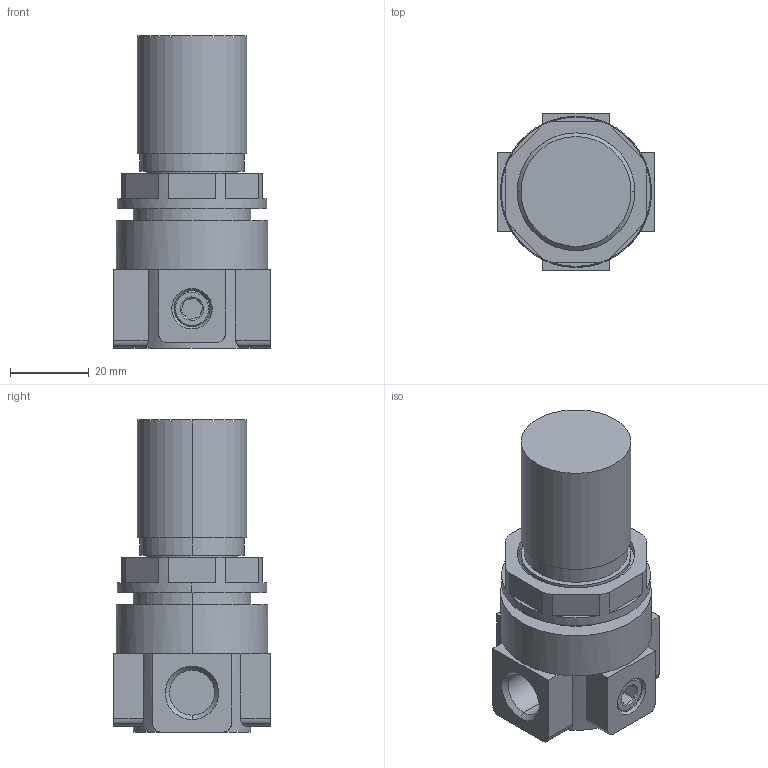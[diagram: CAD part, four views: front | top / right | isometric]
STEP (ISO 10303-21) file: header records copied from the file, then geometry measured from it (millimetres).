
FILE_DESCRIPTION((''),'2;1');
FILE_NAME('I:\DOC-EDP\Lib-3d\FRL\17109B_.stp','2003-06-16T14:51:27',('maffial1'),(''),'Autodesk Inventor 7','Autodesk Inventor 7','');
FILE_SCHEMA(('AUTOMOTIVE_DESIGN { 1 0 10303 214 1 1 1 1 }'));
Length unit declared in the file: millimetre
Products named in the file (4): 17109B_; 17109B_(1); RK_1701_020; RS_1701_12
Assembly tree (3 placements, depth 2):
  17109B_
    17109B_(1)
    RK_1701_020
    RS_1701_12
Bounding box: 40 x 40 x 79.5 mm (x, y, z)
Volume: 67108.8 mm3; surface area: 16072.4 mm2
Topology: 3 solids, 3 shells, 142 faces, 350 edges, 221 vertices
Faces by surface type: plane 64, cylinder 40, bspline 22, cone 12, torus 4
Entity records: 4639 total; most frequent: CARTESIAN_POINT 1222, DIRECTION 707, ORIENTED_EDGE 692, EDGE_CURVE 346, AXIS2_PLACEMENT_3D 262, VERTEX_POINT 221, VECTOR 183, LINE 183
